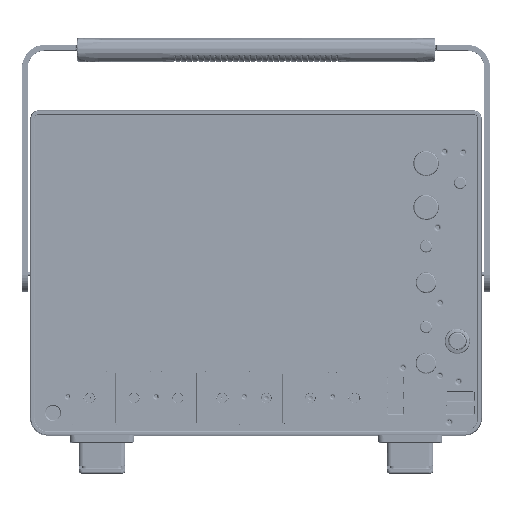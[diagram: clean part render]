
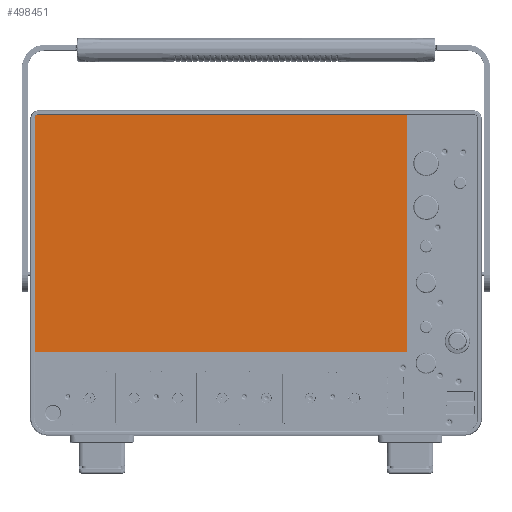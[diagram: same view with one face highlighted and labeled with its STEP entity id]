
A CAD part, front view. The second image highlights one B-rep face of the part: STEP entity #498451.
In plain terms, the highlighted planar face has unit normal (0, -1, 0).
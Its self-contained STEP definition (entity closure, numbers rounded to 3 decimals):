
#483797=DIRECTION('',(0.,0.,-1.));
#483798=VECTOR('',#483797,199.543);
#483799=CARTESIAN_POINT('',(-191.148,1.95,
273.5));
#483800=LINE('',#483799,#483798);
#483804=DIRECTION('',(1.,0.,0.));
#483805=VECTOR('',#483804,316.65);
#483806=CARTESIAN_POINT('',(-187.5,1.95,
277.148));
#483807=LINE('',#483806,#483805);
#483811=DIRECTION('',(0.,0.,-1.));
#483812=VECTOR('',#483811,201.607);
#483813=CARTESIAN_POINT('',(130.73,1.95,
275.567));
#483814=LINE('',#483813,#483812);
#483818=DIRECTION('',(-1.,0.,0.));
#483819=VECTOR('',#483818,318.711);
#483820=CARTESIAN_POINT('',(129.147,1.95,
72.375));
#483821=LINE('',#483820,#483819);
#483825=CARTESIAN_POINT('',(-187.5,1.95,273.5));
#483826=DIRECTION('',(0.,1.,0.));
#483827=DIRECTION('',(-1.,0.,0.));
#483828=AXIS2_PLACEMENT_3D('',#483825,#483826,#483827);
#487112=CARTESIAN_POINT('',(129.147,1.95,
72.375));
#487113=CARTESIAN_POINT('',(129.365,1.95,
72.376));
#487114=CARTESIAN_POINT('',(129.76,1.95,
72.458));
#487115=CARTESIAN_POINT('',(130.296,1.95,
72.809));
#487116=CARTESIAN_POINT('',(130.647,1.95,
73.344));
#487117=CARTESIAN_POINT('',(130.73,1.95,
73.742));
#487118=CARTESIAN_POINT('',(130.73,1.95,
73.96));
#487137=CARTESIAN_POINT('',(130.73,1.95,
275.567));
#487138=CARTESIAN_POINT('',(130.73,1.95,
275.776));
#487139=CARTESIAN_POINT('',(130.651,1.95,
276.169));
#487140=CARTESIAN_POINT('',(130.305,1.95,
276.706));
#487141=CARTESIAN_POINT('',(129.767,1.95,
277.064));
#487142=CARTESIAN_POINT('',(129.367,1.95,
277.147));
#487143=CARTESIAN_POINT('',(129.15,1.95,
277.148));
#487162=CARTESIAN_POINT('',(-191.148,1.95,
73.957));
#487163=CARTESIAN_POINT('',(-191.147,1.95,
73.739));
#487164=CARTESIAN_POINT('',(-191.065,1.95,
73.344));
#487165=CARTESIAN_POINT('',(-190.714,1.95,
72.808));
#487166=CARTESIAN_POINT('',(-190.179,1.95,
72.458));
#487167=CARTESIAN_POINT('',(-189.782,1.95,
72.375));
#487168=CARTESIAN_POINT('',(-189.564,1.95,
72.375));
#495535=CARTESIAN_POINT('',(-191.148,1.95,
273.5));
#495536=CARTESIAN_POINT('',(-191.148,1.95,
73.957));
#495537=VERTEX_POINT('',#495535);
#495538=VERTEX_POINT('',#495536);
#495541=CARTESIAN_POINT('',(-187.5,1.95,
277.148));
#495542=CARTESIAN_POINT('',(129.15,1.95,
277.148));
#495543=VERTEX_POINT('',#495541);
#495544=VERTEX_POINT('',#495542);
#495545=VERTEX_POINT('',#487137);
#495546=CARTESIAN_POINT('',(130.73,1.95,
73.96));
#495547=VERTEX_POINT('',#495546);
#495548=VERTEX_POINT('',#487112);
#495549=CARTESIAN_POINT('',(-189.564,1.95,
72.375));
#495550=VERTEX_POINT('',#495549);
#498429=CARTESIAN_POINT('',(-30.209,1.95,174.761));
#498430=DIRECTION('',(0.,1.,0.));
#498431=DIRECTION('',(-1.,0.,0.));
#498432=AXIS2_PLACEMENT_3D('',#498429,#498430,#498431);
#498433=PLANE('',#498432);
#498435=ORIENTED_EDGE('',*,*,#498434,.T.);
#498437=ORIENTED_EDGE('',*,*,#498436,.F.);
#498439=ORIENTED_EDGE('',*,*,#498438,.T.);
#498441=ORIENTED_EDGE('',*,*,#498440,.F.);
#498443=ORIENTED_EDGE('',*,*,#498442,.T.);
#498445=ORIENTED_EDGE('',*,*,#498444,.F.);
#498446=ORIENTED_EDGE('',*,*,#498416,.F.);
#498448=ORIENTED_EDGE('',*,*,#498447,.T.);
#498449=EDGE_LOOP('',(#498435,#498437,#498439,#498441,#498443,#498445,#498446,
#498448));
#498450=FACE_OUTER_BOUND('',#498449,.F.);
#498451=ADVANCED_FACE('',(#498450),#498433,.F.);
#483829=CIRCLE('',#483828,3.648);
#487119=B_SPLINE_CURVE_WITH_KNOTS('',3,(#487112,#487113,#487114,#487115,#487116,
#487117,#487118),.UNSPECIFIED.,.F.,.F.,(4,1,1,1,4),(0.,0.25,0.5,0.75,
1.),.UNSPECIFIED.);
#487144=B_SPLINE_CURVE_WITH_KNOTS('',3,(#487137,#487138,#487139,#487140,#487141,
#487142,#487143),.UNSPECIFIED.,.F.,.F.,(4,1,1,1,4),(0.,0.25,0.5,0.75,
1.),.UNSPECIFIED.);
#487169=B_SPLINE_CURVE_WITH_KNOTS('',3,(#487162,#487163,#487164,#487165,#487166,
#487167,#487168),.UNSPECIFIED.,.F.,.F.,(4,1,1,1,4),(0.,0.25,0.5,0.75,
1.),.UNSPECIFIED.);
#498416=EDGE_CURVE('',#495537,#495538,#483800,.T.);
#498434=EDGE_CURVE('',#495543,#495544,#483807,.T.);
#498436=EDGE_CURVE('',#495545,#495544,#487144,.T.);
#498438=EDGE_CURVE('',#495545,#495547,#483814,.T.);
#498440=EDGE_CURVE('',#495548,#495547,#487119,.T.);
#498442=EDGE_CURVE('',#495548,#495550,#483821,.T.);
#498444=EDGE_CURVE('',#495538,#495550,#487169,.T.);
#498447=EDGE_CURVE('',#495537,#495543,#483829,.T.);
